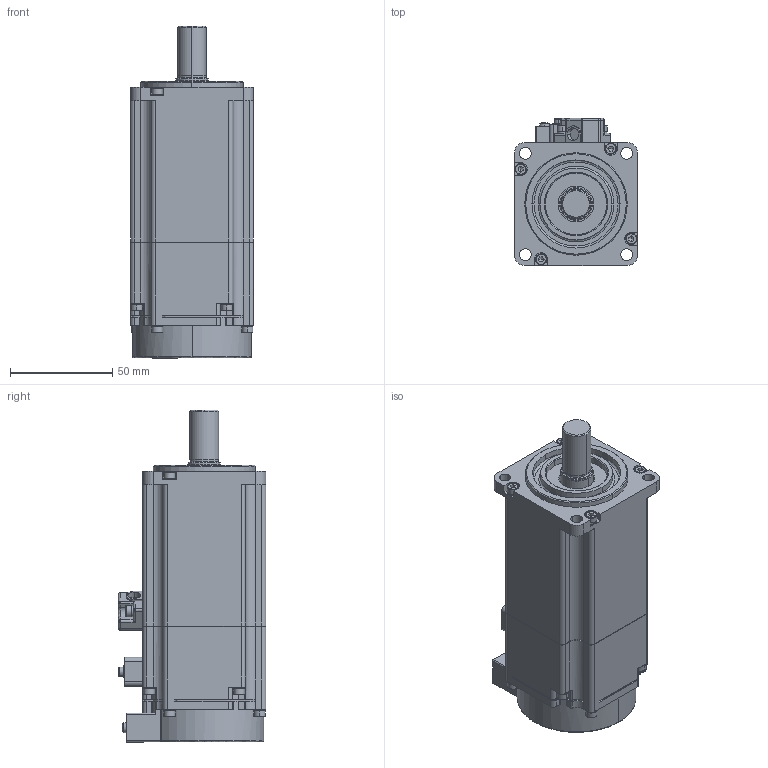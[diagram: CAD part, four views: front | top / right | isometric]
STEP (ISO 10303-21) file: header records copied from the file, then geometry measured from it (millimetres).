
FILE_DESCRIPTION (( 'STEP AP214' ), '1' );
FILE_NAME ('SME-H040B.STEP', '2020-05-18T08:16:08', ( '' ), ( '' ), 'SwSTEP 2.0', 'SolidWorks 2016', '' );
FILE_SCHEMA (( 'AUTOMOTIVE_DESIGN' ));
Length unit declared in the file: millimetre
Products named in the file (1): SME-H040B
Bounding box: 60 x 72 x 162 mm (x, y, z)
Volume: 122972.7 mm3; surface area: 80763 mm2
Topology: 45 solids, 45 shells, 1148 faces, 2921 edges, 1850 vertices
Faces by surface type: plane 446, cylinder 445, cone 170, bspline 87
Entity records: 47160 total; most frequent: CARTESIAN_POINT 9426, DIRECTION 5877, ORIENTED_EDGE 5678, EDGE_CURVE 2839, AXIS2_PLACEMENT_3D 2252, VERTEX_POINT 1850, LINE 1373, VECTOR 1373
